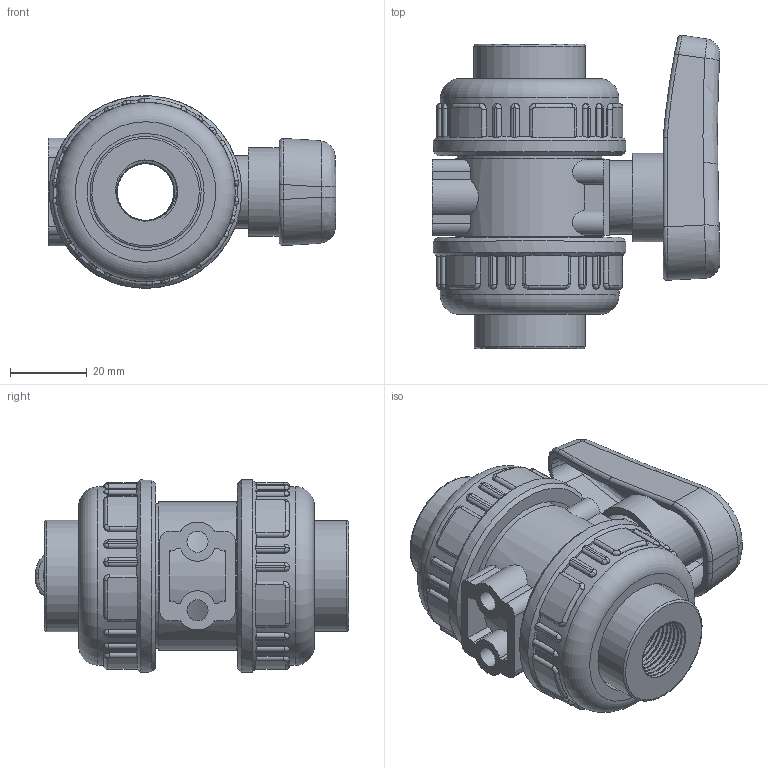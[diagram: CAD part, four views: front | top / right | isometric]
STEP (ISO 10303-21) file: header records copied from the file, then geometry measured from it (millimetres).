
FILE_DESCRIPTION(/* description */ (''),/* implementation_level */ '2;1');
FILE_NAME(/* name */ 'C:\Users\POLYPIPE\Desktop\DATASET INVENTOR\LIBRERIA EFFAST\3D_VALVOLE\3D_VALVOLE A SFERA\3D_BK1\3D_BERBK1E\3D_BERBK1E016A.stp',/* time_stamp */ '2018-01-23T17:07:11+01:00',/* author */ ('POLYPIPE'),/* organization */ (''),/* preprocessor_version */ 'ST-DEVELOPER v16.1',/* originating_system */ 'Autodesk Inventor 2016',/* authorisation */ '');
FILE_SCHEMA (('CONFIG_CONTROL_DESIGN'));
Length unit declared in the file: centimetre
Products named in the file (1): 3D_BERBK1E016A
Bounding box: 74.72 x 81.36 x 49.99 mm (x, y, z)
Volume: 101729 mm3; surface area: 42294 mm2
Topology: 3 solids, 3 shells, 578 faces, 1496 edges, 945 vertices
Faces by surface type: plane 194, cylinder 192, bspline 172, torus 16, cone 4
Full cylindrical faces by diameter (mm): 2.5 x4, 5.5 x2, 12 x1, 14.7 x2, 14.95 x2, 15 x1, 19 x1, 23 x1, 28.9 x2, 30.4 x2, 35.5 x2, 37.5 x2, 38.6 x1, 40.4 x2, 46.5 x2, 50 x2
Entity records: 68592 total; most frequent: CARTESIAN_POINT 54935, ORIENTED_EDGE 2888, DIRECTION 2395, EDGE_CURVE 1444, VERTEX_POINT 929, AXIS2_PLACEMENT_3D 906, EDGE_LOOP 643, LINE 583
